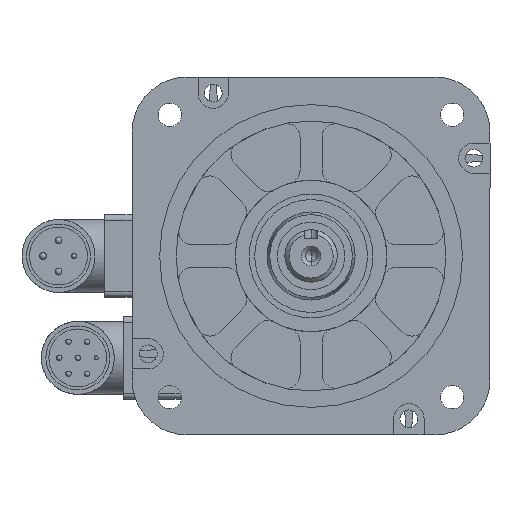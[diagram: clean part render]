
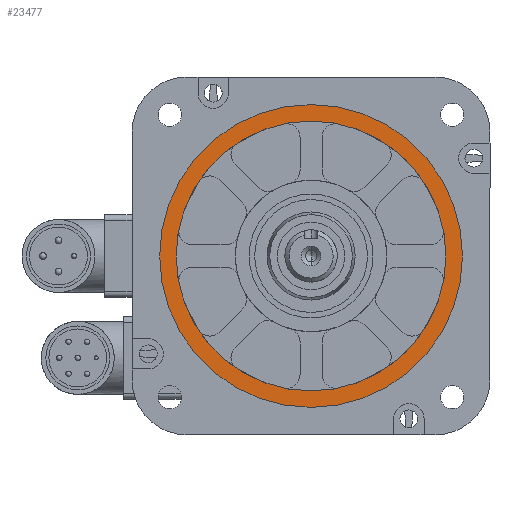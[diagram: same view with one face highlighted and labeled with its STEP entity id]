
A CAD part, left-side view. The second image highlights one B-rep face of the part: STEP entity #23477.
In plain terms, the highlighted planar face has unit normal (-1, 0, 0).
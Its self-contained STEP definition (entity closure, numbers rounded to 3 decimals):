
#246 = CARTESIAN_POINT ( 'NONE',  ( -6., 0., 0. ) ) ;
#566 = EDGE_LOOP ( 'NONE', ( #19430, #16307 ) ) ;
#760 = CARTESIAN_POINT ( 'NONE',  ( -6., 0., 0. ) ) ;
#1133 = CIRCLE ( 'NONE', #2189, 55. ) ;
#2189 = AXIS2_PLACEMENT_3D ( 'NONE', #21519, #9169, #23582 ) ;
#2286 = CARTESIAN_POINT ( 'NONE',  ( -6., 0., -55. ) ) ;
#2294 = CIRCLE ( 'NONE', #20979, 49. ) ;
#2460 = EDGE_CURVE ( 'NONE', #6238, #4419, #1133, .T. ) ;
#2533 = CARTESIAN_POINT ( 'NONE',  ( -6., 0., 49. ) ) ;
#2844 = DIRECTION ( 'NONE',  ( 0., 0., 1. ) ) ;
#2981 = CARTESIAN_POINT ( 'NONE',  ( -6., 0., 0. ) ) ;
#3256 = AXIS2_PLACEMENT_3D ( 'NONE', #24155, #11804, #26218 ) ;
#3708 = CARTESIAN_POINT ( 'NONE',  ( -6., 0., 55. ) ) ;
#4403 = DIRECTION ( 'NONE',  ( 0., 0., -1. ) ) ;
#4419 = VERTEX_POINT ( 'NONE', #2286 ) ;
#5051 = FACE_BOUND ( 'NONE', #15452, .T. ) ;
#5052 = DIRECTION ( 'NONE',  ( 0., 0., 1. ) ) ;
#5433 = AXIS2_PLACEMENT_3D ( 'NONE', #246, #16762, #4403 ) ;
#6238 = VERTEX_POINT ( 'NONE', #3708 ) ;
#6594 = EDGE_CURVE ( 'NONE', #18448, #26237, #19321, .T. ) ;
#7095 = ORIENTED_EDGE ( 'NONE', *, *, #6594, .F. ) ;
#8451 = PLANE ( 'NONE',  #5433 ) ;
#9169 = DIRECTION ( 'NONE',  ( 1., 0., 0. ) ) ;
#9251 = CARTESIAN_POINT ( 'NONE',  ( -6., 0., -49. ) ) ;
#9324 = EDGE_CURVE ( 'NONE', #4419, #6238, #18456, .T. ) ;
#10530 = FACE_OUTER_BOUND ( 'NONE', #566, .T. ) ;
#10998 = ORIENTED_EDGE ( 'NONE', *, *, #15345, .F. ) ;
#11804 = DIRECTION ( 'NONE',  ( 1., 0., 0. ) ) ;
#15201 = DIRECTION ( 'NONE',  ( -1., 0., 0. ) ) ;
#15345 = EDGE_CURVE ( 'NONE', #26237, #18448, #2294, .T. ) ;
#15452 = EDGE_LOOP ( 'NONE', ( #7095, #10998 ) ) ;
#16307 = ORIENTED_EDGE ( 'NONE', *, *, #9324, .F. ) ;
#16762 = DIRECTION ( 'NONE',  ( 1., 0., 0. ) ) ;
#17120 = AXIS2_PLACEMENT_3D ( 'NONE', #2981, #17413, #5052 ) ;
#17413 = DIRECTION ( 'NONE',  ( -1., 0., 0. ) ) ;
#18448 = VERTEX_POINT ( 'NONE', #2533 ) ;
#18456 = CIRCLE ( 'NONE', #3256, 55. ) ;
#19321 = CIRCLE ( 'NONE', #17120, 49. ) ;
#19430 = ORIENTED_EDGE ( 'NONE', *, *, #2460, .F. ) ;
#20979 = AXIS2_PLACEMENT_3D ( 'NONE', #760, #15201, #2844 ) ;
#21519 = CARTESIAN_POINT ( 'NONE',  ( -6., 0., 0. ) ) ;
#23477 = ADVANCED_FACE ( 'NONE', ( #5051, #10530 ), #8451, .F. ) ;
#23582 = DIRECTION ( 'NONE',  ( 0., 0., -1. ) ) ;
#24155 = CARTESIAN_POINT ( 'NONE',  ( -6., 0., 0. ) ) ;
#26218 = DIRECTION ( 'NONE',  ( 0., 0., -1. ) ) ;
#26237 = VERTEX_POINT ( 'NONE', #9251 ) ;
